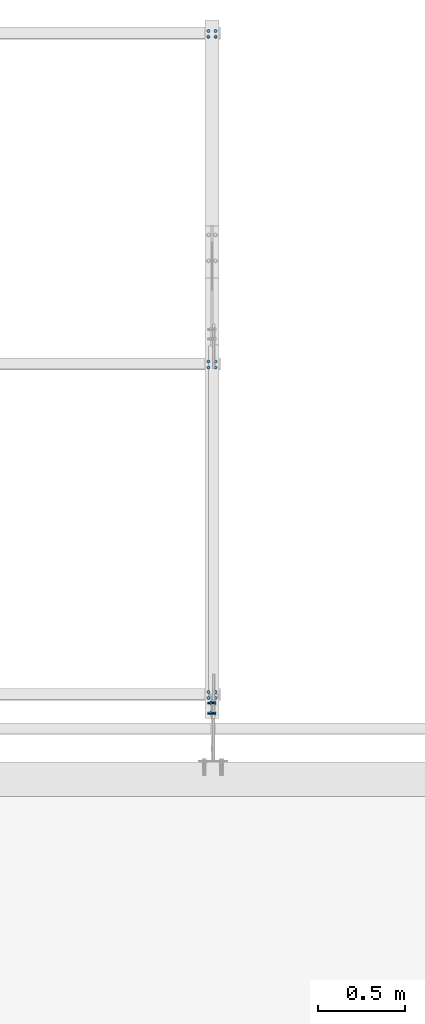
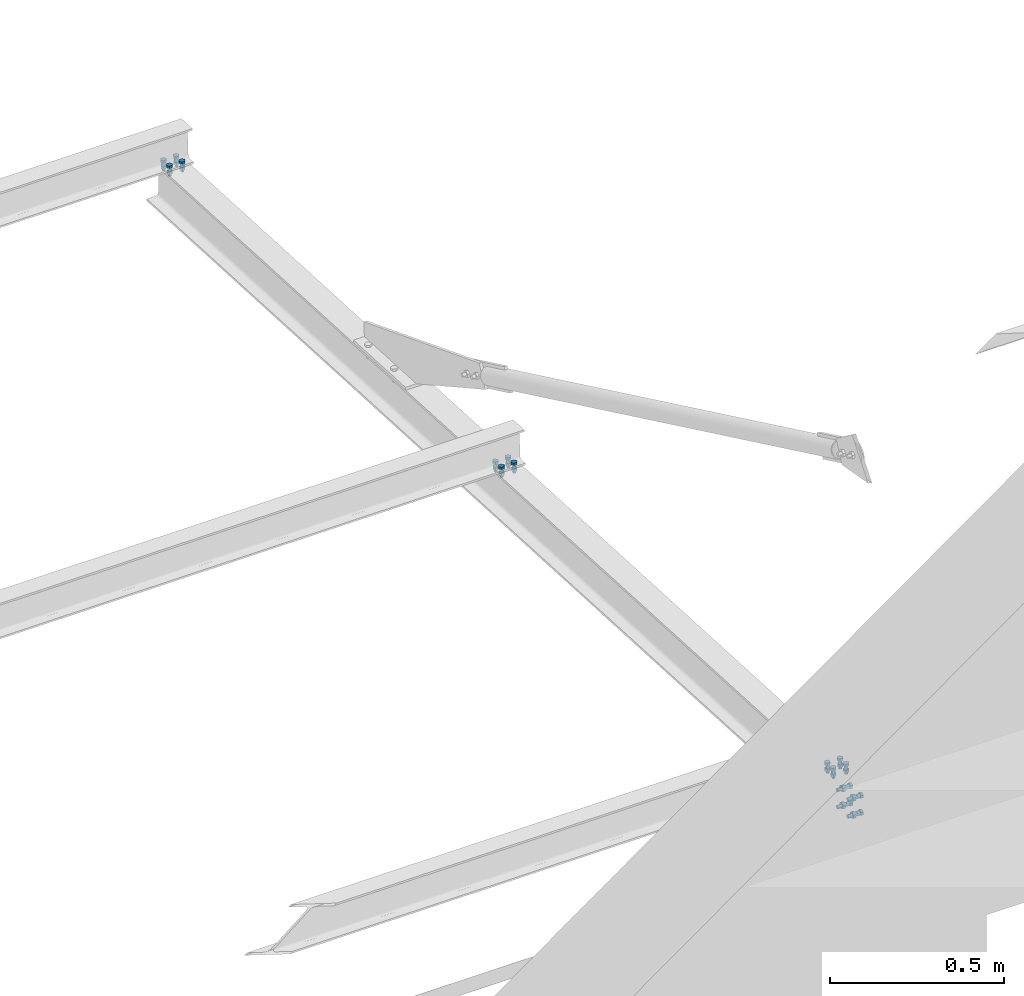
# One storey, part 9 of 10: 7 mechanical fasteners.
"""IFC2X3 building model written with IfcOpenShell, lengths in millimetres."""

from ifc_helpers import new_model, si_unit, frame, origin_with_axes, origin_2d_with_axis, place, context, subcontext, project, spatial, polyline, circle, outline, extrude, source, transform, mapped, material, type_object, element, save


model = new_model("IFC2X3")

# Units and contexts
model_context = context("Model", 3, precision=1e-05, world=origin_with_axes())
body_context = subcontext(model_context, "Body", "Model", "MODEL_VIEW")
ifc_project = project(units=[si_unit("LENGTHUNIT", "METRE", prefix="MILLI"), si_unit("AREAUNIT", "SQUARE_METRE"), si_unit("VOLUMEUNIT", "CUBIC_METRE"), si_unit("MASSUNIT", "GRAM", prefix="KILO"), si_unit("TIMEUNIT", "SECOND"), si_unit("PLANEANGLEUNIT", "RADIAN"), si_unit("SOLIDANGLEUNIT", "STERADIAN"), si_unit("THERMODYNAMICTEMPERATUREUNIT", "DEGREE_CELSIUS"), si_unit("LUMINOUSINTENSITYUNIT", "LUMEN")], contexts=[model_context])

# Site, building, storey
site_placement = place(None, origin_with_axes())
site = spatial("IfcSite", under=ifc_project, at=site_placement, Name="Undefined", CompositionType="ELEMENT")
building_placement = place(site_placement, origin_with_axes())
building = spatial("IfcBuilding", under=site, at=building_placement, Name="Undefined", CompositionType="ELEMENT")
storey_placement = place(building_placement, origin_with_axes())
storey = spatial("IfcBuildingStorey", under=building, at=storey_placement, Name="Undefined", CompositionType="ELEMENT", Elevation=0.0)

# Mechanical fasteners
ifc_material_1 = material(Name="6.8")
mechanical_fastener_type = type_object("IfcMechanicalFastenerType", Name="Bolt assembly")
shared_shape_1 = source(origin_with_axes(), body_context, "Body", "SweptSolid", [
    extrude(circle(Radius=6.0, at=origin_2d_with_axis()), frame((0.0, -0.100005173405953, 0.0), z_axis=(0.0, 1.0, 0.0), x_axis=(1.0, 0.0, 0.0)), (0.0, 0.0, 1.0), 7.5),
    extrude(circle(Radius=6.0, at=origin_2d_with_axis()), frame((0.0, -6.19999893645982, 0.0), z_axis=(0.0, 1.0, 0.0), x_axis=(1.0, 0.0, 0.0)), (0.0, 0.0, 1.0), 6.3),
    extrude(outline(polyline([(9.81495457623, 0.0), (4.907477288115, 8.5000000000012), (-4.907477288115, 8.5000000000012), (-9.81495457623, 0.0), (-4.907477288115, -8.5000000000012), (4.907477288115, -8.5000000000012), (9.81495457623, 0.0)])), frame((0.0, -13.7999989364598, 0.0), z_axis=(0.0, 1.0, 0.0), x_axis=(1.0, 0.0, 0.0)), (0.0, 0.0, 1.0), 7.5),
    extrude(circle(Radius=5.0, at=origin_2d_with_axis()), frame((0.0, -6.29999893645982, 0.0), z_axis=(0.0, 1.0, 0.0), x_axis=(1.0, 0.0, 0.0)), (0.0, 0.0, 1.0), 30.0),
    extrude(outline(polyline([(9.23760430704, 0.0), (4.61880215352, 8.00000000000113), (-4.61880215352, 8.00000000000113), (-9.23760430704, 0.0), (-4.61880215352, -8.00000000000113), (4.61880215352, -8.00000000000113), (9.23760430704, 0.0)])), frame((0.0, 7.40000130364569, 0.0), z_axis=(0.0, 1.0, 0.0), x_axis=(1.0, 0.0, 0.0)), (0.0, 0.0, 1.0), 8.4),
])
for number, where, z_axis, x_axis, name in (
    (1, (35863.9999387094, 29240.000113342, 2837.99999585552), (0.0, -0.998630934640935, 0.0523092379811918), (-1.0, 0.0, 0.0), "Bolt assembly"),
    (2, (35863.9999387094, 27332.6130853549, 2937.91074339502), (0.0, -0.998630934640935, 0.0523092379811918), (-1.0, 0.0, 0.0), "Bolt assembly"),
    (3, (35863.9999387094, 25425.2260573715, 3037.82149093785), (0.0, -0.998630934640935, 0.0523092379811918), (-1.0, 0.0, 0.0), "Bolt assembly"),
):
    element("IfcMechanicalFastener", number, at=place(storey_placement, frame(where, z_axis=z_axis, x_axis=x_axis)), inside=storey, type_object=mechanical_fastener_type, material=ifc_material_1, Name=name, NominalDiameter=10.0, NominalLength=30.0, context=body_context, shape_type="MappedRepresentation", body=[
        mapped(shared_shape_1, transform((0.0, 3.18323145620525e-11, -16.9999999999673))),
        mapped(shared_shape_1, transform((42.0, 3.18323145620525e-11, -16.9999999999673))),
        mapped(shared_shape_1, transform((0.0, -3.18323145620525e-11, 16.9999999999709))),
        mapped(shared_shape_1, transform((42.0, -3.18323145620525e-11, 16.9999999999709))),
    ])
ifc_material_2 = material(Name="8.8-SB-GALVA")
shared_shape_2 = source(origin_with_axes(), body_context, "Body", "SweptSolid", [
    extrude(circle(Radius=7.0, at=origin_2d_with_axis()), frame((0.0, -2.60000006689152, 0.0), z_axis=(0.0, 1.0, 0.0), x_axis=(1.0, 0.0, 0.0)), (0.0, 0.0, 1.0), 5.1),
    extrude(circle(Radius=7.0, at=origin_2d_with_axis()), frame((0.0, -14.9, 0.0), z_axis=(0.0, 1.0, 0.0), x_axis=(1.0, 0.0, 0.0)), (0.0, 0.0, 1.0), 10.0),
    extrude(outline(polyline([(10.39230484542, 0.0), (5.19615242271, 9.00000000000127), (-5.19615242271, 9.00000000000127), (-10.39230484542, 0.0), (-5.19615242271, -9.00000000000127), (5.19615242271, -9.00000000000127), (10.39230484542, 0.0)])), frame((0.0, -22.92, 0.0), z_axis=(0.0, 1.0, 0.0), x_axis=(1.0, 0.0, 0.0)), (0.0, 0.0, 1.0), 7.92),
    extrude(circle(Radius=6.0, at=origin_2d_with_axis()), frame((0.0, -15.0, 0.0), z_axis=(0.0, 1.0, 0.0), x_axis=(1.0, 0.0, 0.0)), (0.0, 0.0, 1.0), 40.0),
    extrude(outline(polyline([(11.5008173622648, 0.0), (5.7504086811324, 9.96000000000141), (-5.7504086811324, 9.96000000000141), (-11.5008173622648, 0.0), (-5.7504086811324, -9.96000000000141), (5.7504086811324, -9.96000000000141), (11.5008173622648, 0.0)])), frame((0.0, 2.49999993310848, 0.0), z_axis=(0.0, 1.0, 0.0), x_axis=(1.0, 0.0, 0.0)), (0.0, 0.0, 1.0), 7.92),
])
for number, where, z_axis, x_axis, name in (
    (4, (35842.9999703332, 25319.9999998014, 2993.26478427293), (-8.92000021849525e-07, -0.999999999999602, 0.0), (0.0, 0.0, 1.0), "Bolt assembly"),
    (5, (35842.9999703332, 25379.9999998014, 2990.12192721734), (-8.92000021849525e-07, -0.999999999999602, 0.0), (0.0, 0.0, 1.0), "Bolt assembly"),
    (6, (35842.9999703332, 25319.9999998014, 2933.18252773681), (0.0, 1.0, 0.0), (1.80000123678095e-08, 0.0, -1.0), "Bolt assembly"),
    (7, (35842.9999703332, 25379.9999998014, 2930.03967068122), (0.0, 1.0, 0.0), (1.80000123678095e-08, 0.0, -1.0), "Bolt assembly"),
):
    element("IfcMechanicalFastener", number, at=place(storey_placement, frame(where, z_axis=z_axis, x_axis=x_axis)), inside=storey, type_object=mechanical_fastener_type, material=ifc_material_2, Name=name, NominalDiameter=12.0, NominalLength=40.0, context=body_context, shape_type="MappedRepresentation", body=[
        mapped(shared_shape_2, transform((0.0, 0.0, 0.0))),
    ])

save(model, "model.ifc")
